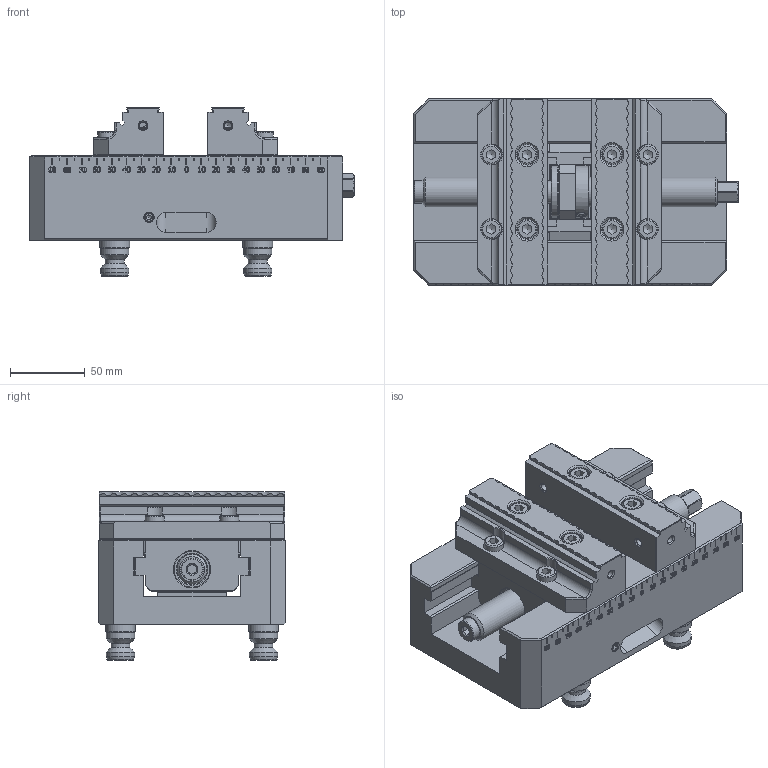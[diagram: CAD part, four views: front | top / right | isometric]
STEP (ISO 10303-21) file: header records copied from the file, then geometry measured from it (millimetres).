
FILE_DESCRIPTION(/* description */ (''),/* implementation_level */ '2;1');
FILE_NAME(/* name */ '1AZV521GA0101-OPEN.stp',/* time_stamp */ '2025-05-27T23:22:35+08:00',/* author */ ('UserName'),/* organization */ (''),/* preprocessor_version */ 'ST-DEVELOPER v20',/* originating_system */ 'Autodesk Inventor 2025',/* authorisation */ '');
FILE_SCHEMA (('CONFIG_CONTROL_DESIGN'));
Products named in the file (1): 零件35
Bounding box: 217.72 x 125 x 113 mm (x, y, z)
Volume: 1425164.1 mm3; surface area: 220311.3 mm2
Topology: 17 solids, 47 shells, 2936 faces, 7709 edges, 4977 vertices
Faces by surface type: plane 1474, bspline 846, cylinder 339, cone 213, sphere 32, torus 32
Full cylindrical faces by diameter (mm): 2 x2, 3 x8, 3.242 x4, 4.4 x4, 4.917 x10, 6.647 x8, 8 x12, 8.5 x8, 9 x8, 10 x1, 12.6 x4, 13 x8, 14 x8, 15 x3, 15.992 x4, 16 x4, 18.7 x1, 19.012 x8, 19.972 x4, 20 x8, 24 x2, 35 x6
Entity records: 97426 total; most frequent: CARTESIAN_POINT 27833, ORIENTED_EDGE 15396, DIRECTION 11125, EDGE_CURVE 7698, VERTEX_POINT 5041, LINE 4719, VECTOR 4719, EDGE_LOOP 3273
